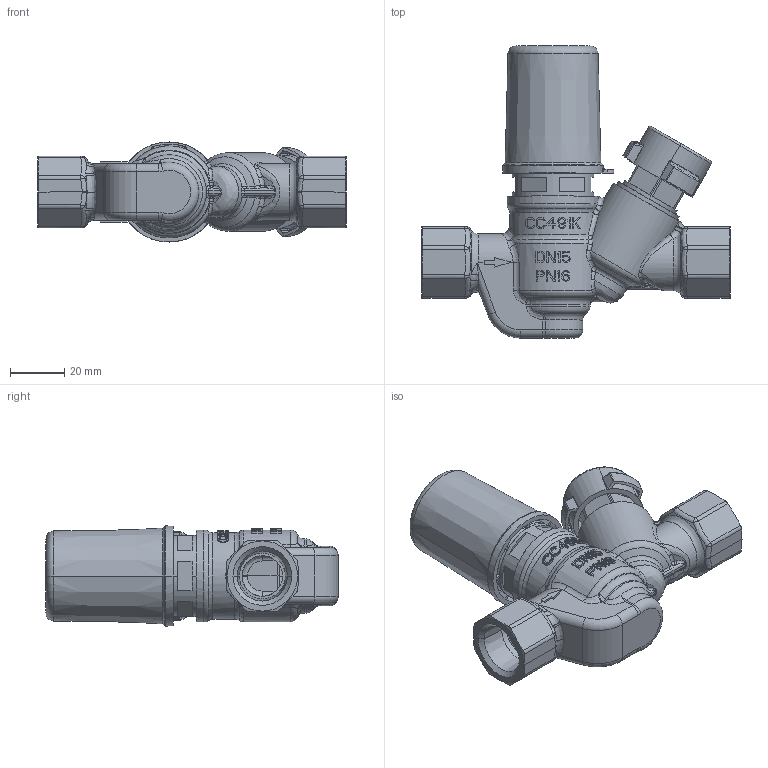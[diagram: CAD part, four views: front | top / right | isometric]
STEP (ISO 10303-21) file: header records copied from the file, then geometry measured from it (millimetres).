
FILE_DESCRIPTION((''),'2;1');
FILE_NAME('FIG2910_DN15_ASM','2013-05-14T',('RChallis'),(''),'PRO/ENGINEER BY PARAMETRIC TECHNOLOGY CORPORATION, 2007460','PRO/ENGINEER BY PARAMETRIC TECHNOLOGY CORPORATION, 2007460','');
FILE_SCHEMA(('CONFIG_CONTROL_DESIGN'));
Length unit declared in the file: millimetre
Products named in the file (3): FIG2910_DN15_NO-CAP_SW; 146110_TU_PROTECTIVE_CAP_HNH; FIG2910_DN15_ASM
Assembly tree (2 placements, depth 2):
  FIG2910_DN15_ASM
    FIG2910_DN15_NO-CAP_SW
    146110_TU_PROTECTIVE_CAP_HNH
Bounding box: 114 x 108 x 37 mm (x, y, z)
Volume: 105067.7 mm3; surface area: 53240 mm2
Topology: 19 solids, 19 shells, 3540 faces, 9921 edges, 6483 vertices
Faces by surface type: plane 2868, cylinder 254, bspline 208, cone 88, torus 80, sphere 42
Entity records: 125462 total; most frequent: CARTESIAN_POINT 38292, ORIENTED_EDGE 19838, DIRECTION 15789, EDGE_CURVE 9919, VERTEX_POINT 6483, VECTOR 6123, LINE 6123, AXIS2_PLACEMENT_3D 4833
